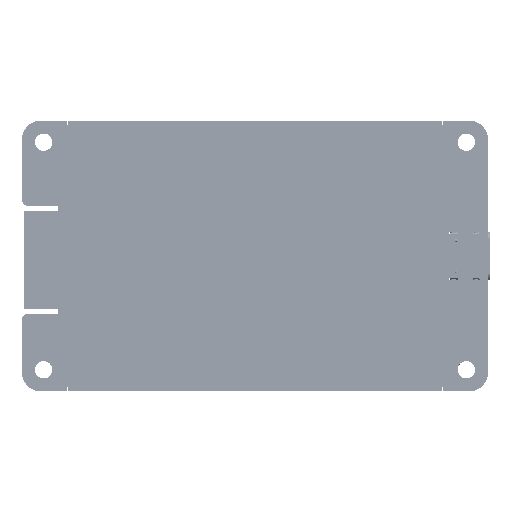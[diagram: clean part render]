
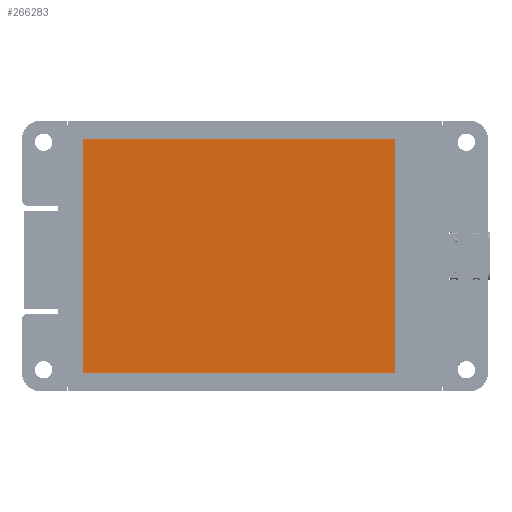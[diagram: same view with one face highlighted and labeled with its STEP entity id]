
A CAD part, top view. The second image highlights one B-rep face of the part: STEP entity #266283.
In plain terms, the highlighted planar face has unit normal (0, 0, 1).
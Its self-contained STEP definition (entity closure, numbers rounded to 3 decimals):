
#266154 = VERTEX_POINT('',#266155);
#266155 = CARTESIAN_POINT('',(-28.801,21.602,2.3));
#266161 = EDGE_CURVE('',#266154,#266162,#266164,.T.);
#266162 = VERTEX_POINT('',#266163);
#266163 = CARTESIAN_POINT('',(28.801,21.602,2.3));
#266164 = LINE('',#266165,#266166);
#266165 = CARTESIAN_POINT('',(-28.801,21.602,2.3));
#266166 = VECTOR('',#266167,1.);
#266167 = DIRECTION('',(1.,0.,0.));
#266192 = EDGE_CURVE('',#266162,#266193,#266195,.T.);
#266193 = VERTEX_POINT('',#266194);
#266194 = CARTESIAN_POINT('',(28.801,-21.602,2.3));
#266195 = LINE('',#266196,#266197);
#266196 = CARTESIAN_POINT('',(28.801,21.602,2.3));
#266197 = VECTOR('',#266198,1.);
#266198 = DIRECTION('',(0.,-1.,0.));
#266223 = EDGE_CURVE('',#266193,#266224,#266226,.T.);
#266224 = VERTEX_POINT('',#266225);
#266225 = CARTESIAN_POINT('',(-28.801,-21.602,2.3));
#266226 = LINE('',#266227,#266228);
#266227 = CARTESIAN_POINT('',(28.801,-21.602,2.3));
#266228 = VECTOR('',#266229,1.);
#266229 = DIRECTION('',(-1.,0.,0.));
#266254 = EDGE_CURVE('',#266224,#266154,#266255,.T.);
#266255 = LINE('',#266256,#266257);
#266256 = CARTESIAN_POINT('',(-28.801,-21.602,2.3));
#266257 = VECTOR('',#266258,1.);
#266258 = DIRECTION('',(0.,1.,0.));
#266283 = ADVANCED_FACE('',(#266284),#266290,.T.);
#266284 = FACE_BOUND('',#266285,.F.);
#266285 = EDGE_LOOP('',(#266286,#266287,#266288,#266289));
#266286 = ORIENTED_EDGE('',*,*,#266161,.T.);
#266287 = ORIENTED_EDGE('',*,*,#266192,.T.);
#266288 = ORIENTED_EDGE('',*,*,#266223,.T.);
#266289 = ORIENTED_EDGE('',*,*,#266254,.T.);
#266290 = PLANE('',#266291);
#266291 = AXIS2_PLACEMENT_3D('',#266292,#266293,#266294);
#266292 = CARTESIAN_POINT('',(-28.801,21.602,2.3));
#266293 = DIRECTION('',(0.,0.,1.));
#266294 = DIRECTION('',(1.,0.,0.));
